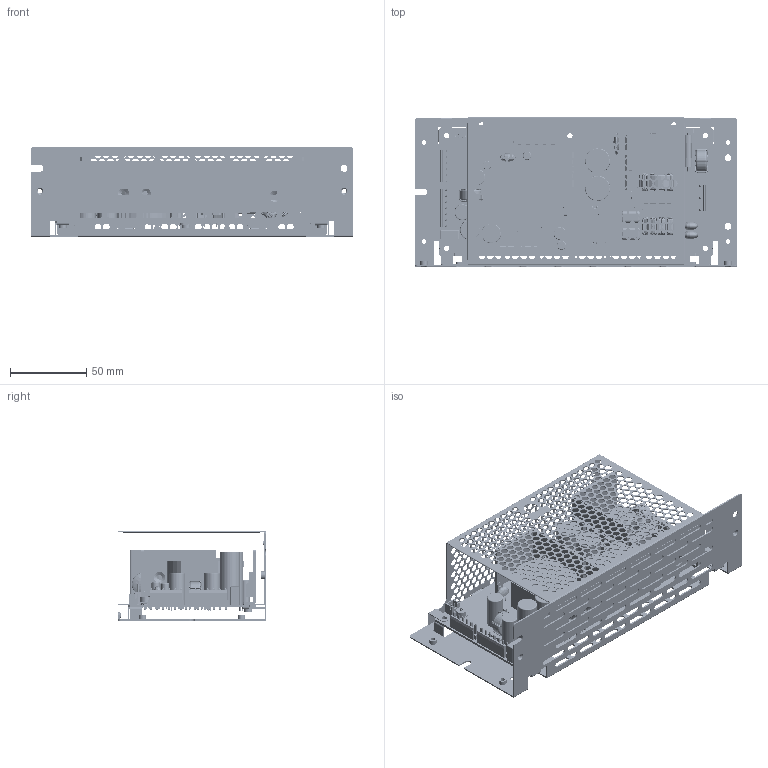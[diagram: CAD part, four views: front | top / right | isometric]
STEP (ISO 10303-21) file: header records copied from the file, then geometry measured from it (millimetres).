
FILE_DESCRIPTION((''),'2;1');
FILE_NAME('ASM0001_ASM','2016-08-29T',('ERIC.YP.CHEN'),(''),'PRO/ENGINEER BY PARAMETRIC TECHNOLOGY CORPORATION, 2010280','PRO/ENGINEER BY PARAMETRIC TECHNOLOGY CORPORATION, 2010280','');
FILE_SCHEMA(('CONFIG_CONTROL_DESIGN'));
Products named in the file (30): 331609650101_CHASSIS; NEW_COVER; PWB; CON2_BODY; B2B-XH-A; B6P_VH; B7P_VH; VR1_; LEG1_; VR_LEG__ASM; HSK1; HSK2; HSK3; 242017402335_Q1; D10; 202013660108_D101; PRT0001; PRT0002; ASM0003_ASM; ASM0002_ASM; CY_1; NTC_HOLDER; NTC1_12; Z1; F1; 2875262201_FL2; 2875143500_FL1; 2875251901_FL1; C5; ASM0001_ASM
Assembly tree (41 placements, depth 4):
  ASM0001_ASM
    331609650101_CHASSIS
    NEW_COVER
    PWB
    CON2_BODY
    B2B-XH-A
    B6P_VH
    B7P_VH
    VR_LEG__ASM
      VR1_
      LEG1_  x3
    HSK1
    HSK2
    HSK3
    242017402335_Q1  x4
    D10
    202013660108_D101  x2
    ASM0002_ASM
      ASM0003_ASM
        PRT0001
        PRT0002  x2
    CY_1  x3
    NTC_HOLDER
    NTC1_12
    Z1  x2
    F1
    2875262201_FL2
    2875143500_FL1  x2
    2875251901_FL1
    C5  x2
Bounding box: 212 x 98 x 59 mm (x, y, z)
Volume: 197277.9 mm3; surface area: 201230.4 mm2
Topology: 63 solids, 63 shells, 6496 faces, 16976 edges, 10335 vertices
Faces by surface type: cylinder 3386, plane 1656, torus 1327, bspline 48, sphere 39, cone 28, revolution 12
Entity records: 218152 total; most frequent: CARTESIAN_POINT 61350, DIRECTION 35452, ORIENTED_EDGE 31426, EDGE_CURVE 15713, AXIS2_PLACEMENT_3D 14492, VERTEX_POINT 9621, CIRCLE 8486, EDGE_LOOP 7714
